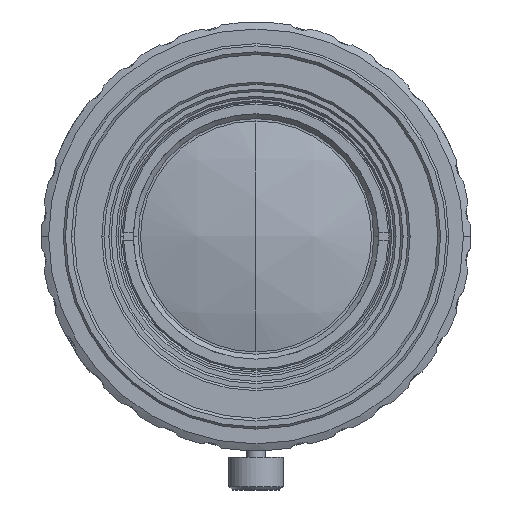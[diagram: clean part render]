
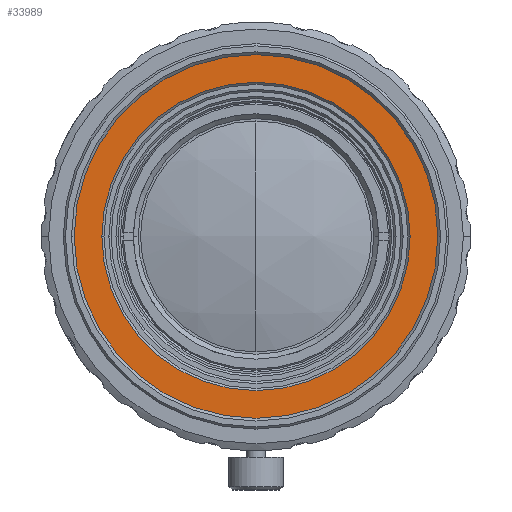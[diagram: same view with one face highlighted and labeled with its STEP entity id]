
A CAD part, front view. The second image highlights one B-rep face of the part: STEP entity #33989.
In plain terms, the highlighted planar face has unit normal (0, -1, 0).
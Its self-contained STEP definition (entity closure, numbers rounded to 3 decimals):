
#351 = ORIENTED_EDGE ( 'NONE', *, *, #31837, .F. ) ;
#733 = CIRCLE ( 'NONE', #12589, 14.2 ) ;
#1280 = ORIENTED_EDGE ( 'NONE', *, *, #34628, .F. ) ;
#2337 = VERTEX_POINT ( 'NONE', #11191 ) ;
#5116 = DIRECTION ( 'NONE',  ( 0., -1., 0. ) ) ;
#5302 = VERTEX_POINT ( 'NONE', #28927 ) ;
#7610 = FACE_BOUND ( 'NONE', #13274, .T. ) ;
#8046 = DIRECTION ( 'NONE',  ( 1., 0., 0. ) ) ;
#8248 = VERTEX_POINT ( 'NONE', #14552 ) ;
#8534 = FACE_OUTER_BOUND ( 'NONE', #35108, .T. ) ;
#8666 = AXIS2_PLACEMENT_3D ( 'NONE', #10401, #30557, #13260 ) ;
#10401 = CARTESIAN_POINT ( 'NONE',  ( 0., -78.714, 0. ) ) ;
#11191 = CARTESIAN_POINT ( 'NONE',  ( -14.2, -78.714, 0. ) ) ;
#11344 = EDGE_CURVE ( 'NONE', #8248, #5302, #16466, .T. ) ;
#11879 = CARTESIAN_POINT ( 'NONE',  ( 0., -78.714, 0. ) ) ;
#12532 = CIRCLE ( 'NONE', #18652, 17. ) ;
#12589 = AXIS2_PLACEMENT_3D ( 'NONE', #11879, #32086, #14756 ) ;
#12811 = AXIS2_PLACEMENT_3D ( 'NONE', #25213, #25344, #8046 ) ;
#13260 = DIRECTION ( 'NONE',  ( 1., 0., 0. ) ) ;
#13274 = EDGE_LOOP ( 'NONE', ( #351, #1280 ) ) ;
#13296 = DIRECTION ( 'NONE',  ( 0., -1., 0. ) ) ;
#14552 = CARTESIAN_POINT ( 'NONE',  ( 17., -78.714, 0. ) ) ;
#14756 = DIRECTION ( 'NONE',  ( 1., 0., 0. ) ) ;
#16466 = CIRCLE ( 'NONE', #33274, 17. ) ;
#18652 = AXIS2_PLACEMENT_3D ( 'NONE', #30605, #13296, #33515 ) ;
#19603 = EDGE_CURVE ( 'NONE', #5302, #8248, #12532, .T. ) ;
#20834 = CARTESIAN_POINT ( 'NONE',  ( 14.2, -78.714, 0. ) ) ;
#22372 = CARTESIAN_POINT ( 'NONE',  ( 0., -78.714, 0. ) ) ;
#22390 = PLANE ( 'NONE',  #12811 ) ;
#25213 = CARTESIAN_POINT ( 'NONE',  ( 0., -78.714, 14.2 ) ) ;
#25327 = DIRECTION ( 'NONE',  ( 1., 0., 0. ) ) ;
#25344 = DIRECTION ( 'NONE',  ( 0., -1., 0. ) ) ;
#27087 = ORIENTED_EDGE ( 'NONE', *, *, #19603, .T. ) ;
#28927 = CARTESIAN_POINT ( 'NONE',  ( -17., -78.714, 0. ) ) ;
#30557 = DIRECTION ( 'NONE',  ( 0., -1., 0. ) ) ;
#30605 = CARTESIAN_POINT ( 'NONE',  ( 0., -78.714, 0. ) ) ;
#31837 = EDGE_CURVE ( 'NONE', #32718, #2337, #34186, .T. ) ;
#32086 = DIRECTION ( 'NONE',  ( 0., -1., 0. ) ) ;
#32718 = VERTEX_POINT ( 'NONE', #20834 ) ;
#32930 = ORIENTED_EDGE ( 'NONE', *, *, #11344, .T. ) ;
#33274 = AXIS2_PLACEMENT_3D ( 'NONE', #22372, #5116, #25327 ) ;
#33515 = DIRECTION ( 'NONE',  ( 1., 0., 0. ) ) ;
#33989 = ADVANCED_FACE ( 'NONE', ( #8534, #7610 ), #22390, .T. ) ;
#34186 = CIRCLE ( 'NONE', #8666, 14.2 ) ;
#34628 = EDGE_CURVE ( 'NONE', #2337, #32718, #733, .T. ) ;
#35108 = EDGE_LOOP ( 'NONE', ( #32930, #27087 ) ) ;
